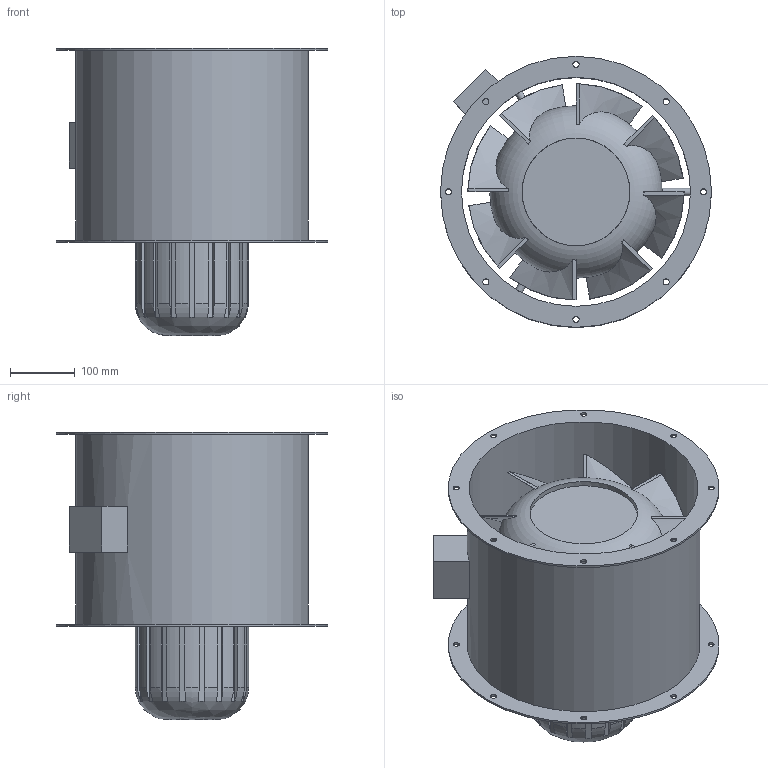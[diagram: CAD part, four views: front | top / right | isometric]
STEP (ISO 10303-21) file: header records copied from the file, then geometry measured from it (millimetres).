
FILE_DESCRIPTION(/* description */ (''),/* implementation_level */ '2;1');
FILE_NAME(/* name */ 'Z:\Output\VARD_355-4_EX-06685-020.stp',/* time_stamp */ '2017-10-09T10:50:04+02:00',/* author */ ('jayeshpanchal'),/* organization */ (''),/* preprocessor_version */ 'ST-DEVELOPER v16.5',/* originating_system */ 'Autodesk Inventor 2017',/* authorisation */ '');
FILE_SCHEMA (('AUTOMOTIVE_DESIGN { 1 0 10303 214 3 1 1 }'));
Length unit declared in the file: millimetre
Products named in the file (1): AVD-RK
Bounding box: 420 x 420 x 445 mm (x, y, z)
Volume: 12082943.9 mm3; surface area: 1329683.4 mm2
Topology: 1 solids, 1 shells, 156 faces, 458 edges, 310 vertices
Faces by surface type: plane 83, cylinder 44, bspline 25, cone 2, torus 2
Full cylindrical faces by diameter (mm): 9.5 x16, 11.5 x3, 30 x1, 167 x1, 267 x1, 355 x1, 361 x1, 420 x2
Entity records: 5834 total; most frequent: CARTESIAN_POINT 1916, ORIENTED_EDGE 826, DIRECTION 732, EDGE_CURVE 413, AXIS2_PLACEMENT_3D 301, VERTEX_POINT 296, EDGE_LOOP 227, FACE_OUTER_BOUND 154
